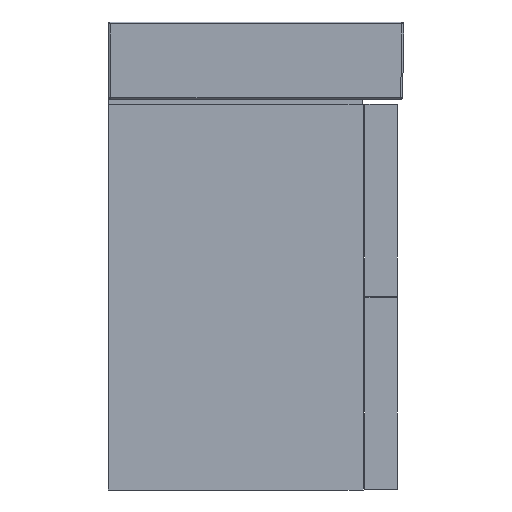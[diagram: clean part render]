
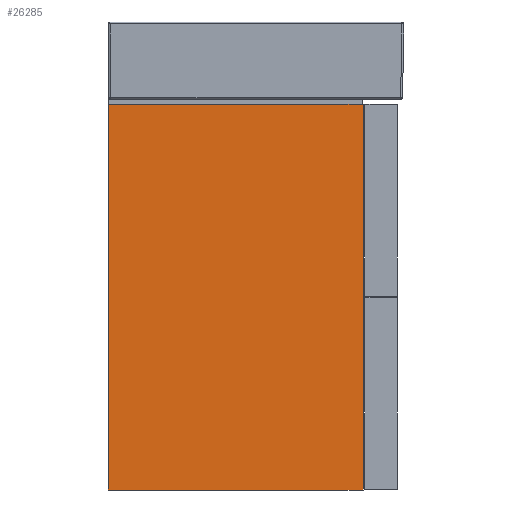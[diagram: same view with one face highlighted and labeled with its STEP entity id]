
A CAD part, left-side view. The second image highlights one B-rep face of the part: STEP entity #26285.
In plain terms, the highlighted planar face has unit normal (-1, 0, 0).
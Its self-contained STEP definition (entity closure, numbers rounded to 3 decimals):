
#1284=PLANE('',#29171);
#2386=FACE_OUTER_BOUND('',#3762,.T.);
#3762=EDGE_LOOP('',(#20285,#20286,#20287,#20288));
#6515=LINE('',#94124,#9163);
#6518=LINE('',#94130,#9166);
#6519=LINE('',#94132,#9167);
#6520=LINE('',#94133,#9168);
#9163=VECTOR('',#32978,1.);
#9166=VECTOR('',#32983,1.);
#9167=VECTOR('',#32984,1.);
#9168=VECTOR('',#32985,1.);
#12742=VERTEX_POINT('',#94121);
#12743=VERTEX_POINT('',#94123);
#12745=VERTEX_POINT('',#94129);
#12746=VERTEX_POINT('',#94131);
#16045=EDGE_CURVE('',#12742,#12743,#6515,.T.);
#16048=EDGE_CURVE('',#12745,#12742,#6518,.T.);
#16049=EDGE_CURVE('',#12745,#12746,#6519,.T.);
#16050=EDGE_CURVE('',#12743,#12746,#6520,.T.);
#20285=ORIENTED_EDGE('',*,*,#16045,.F.);
#20286=ORIENTED_EDGE('',*,*,#16048,.F.);
#20287=ORIENTED_EDGE('',*,*,#16049,.T.);
#20288=ORIENTED_EDGE('',*,*,#16050,.F.);
#26285=ADVANCED_FACE('',(#2386),#1284,.T.);
#29171=AXIS2_PLACEMENT_3D('',#94128,#32981,#32982);
#32978=DIRECTION('',(0.,0.,1.));
#32981=DIRECTION('center_axis',(-1.,0.,0.));
#32982=DIRECTION('ref_axis',(0.,-1.,0.));
#32983=DIRECTION('',(0.,1.,0.));
#32984=DIRECTION('',(0.,0.,1.));
#32985=DIRECTION('',(0.,-1.,0.));
#94121=CARTESIAN_POINT('',(-19494.815,-24122.745,-1723.203));
#94123=CARTESIAN_POINT('',(-19494.815,-24122.745,-1123.203));
#94124=CARTESIAN_POINT('',(-19494.815,-24122.745,-1823.203));
#94128=CARTESIAN_POINT('Origin',(-19494.815,-24085.245,-1823.203));
#94129=CARTESIAN_POINT('',(-19494.815,-24519.245,-1723.203));
#94130=CARTESIAN_POINT('',(-19494.815,-24193.745,-1723.203));
#94131=CARTESIAN_POINT('',(-19494.815,-24519.245,-1123.203));
#94132=CARTESIAN_POINT('',(-19494.815,-24519.245,-1823.203));
#94133=CARTESIAN_POINT('',(-19494.815,-24085.245,-1123.203));
